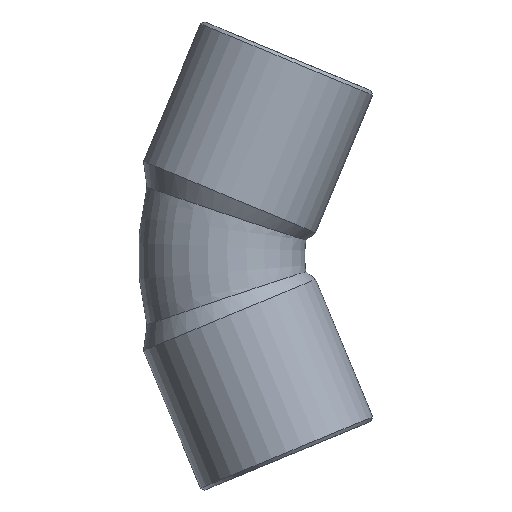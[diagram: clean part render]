
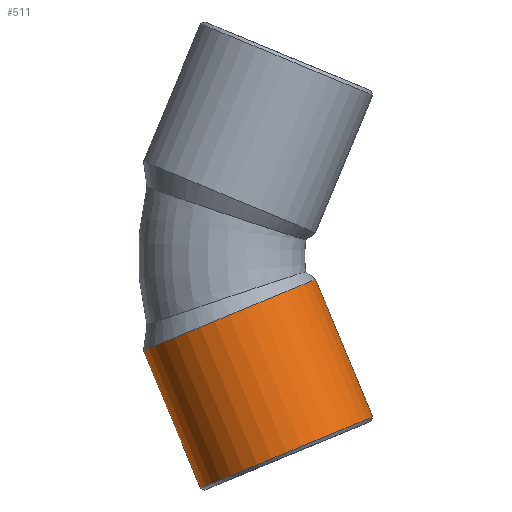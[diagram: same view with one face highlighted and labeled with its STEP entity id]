
A CAD part, front view. The second image highlights one B-rep face of the part: STEP entity #511.
In plain terms, the highlighted cylindrical face has radius 5.6 mm (diameter 11.2 mm), a partial arc.
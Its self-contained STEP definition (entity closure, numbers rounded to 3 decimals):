
#201=CARTESIAN_POINT('',(-12.258,0.,-5.69));
#202=VERTEX_POINT('',#201);
#209=CARTESIAN_POINT('',(-1.911,0.,-1.404));
#210=VERTEX_POINT('',#209);
#211=CARTESIAN_POINT('',(-7.085,0.,-3.547));
#212=DIRECTION('',(-0.383,0.,0.924));
#213=DIRECTION('',(0.924,0.,0.383));
#214=AXIS2_PLACEMENT_3D('',#211,#212,#213);
#215=CIRCLE('',#214,5.6);
#216=EDGE_CURVE('',#202,#210,#215,.T.);
#480=CARTESIAN_POINT('',(-7.023,0.,-3.696));
#481=DIRECTION('',(0.383,0.,-0.924));
#482=DIRECTION('',(0.924,0.,0.383));
#483=AXIS2_PLACEMENT_3D('',#480,#481,#482);
#484=CYLINDRICAL_SURFACE('',#483,5.6);
#485=CARTESIAN_POINT('',(1.518,0.,-9.683));
#486=VERTEX_POINT('',#485);
#487=CARTESIAN_POINT('',(-1.911,0.,-1.404));
#488=DIRECTION('',(0.383,0.,-0.924));
#489=VECTOR('',#488,8.961);
#490=LINE('',#487,#489);
#491=EDGE_CURVE('',#210,#486,#490,.T.);
#492=ORIENTED_EDGE('',*,*,#491,.F.);
#493=ORIENTED_EDGE('',*,*,#216,.F.);
#494=CARTESIAN_POINT('',(-8.829,0.,-13.969));
#495=VERTEX_POINT('',#494);
#496=CARTESIAN_POINT('',(-8.829,0.,-13.969));
#497=DIRECTION('',(-0.383,0.,0.924));
#498=VECTOR('',#497,8.961);
#499=LINE('',#496,#498);
#500=EDGE_CURVE('',#495,#202,#499,.T.);
#501=ORIENTED_EDGE('',*,*,#500,.F.);
#502=CARTESIAN_POINT('',(-3.655,0.,-11.826));
#503=DIRECTION('',(0.383,0.,-0.924));
#504=DIRECTION('',(0.924,0.,0.383));
#505=AXIS2_PLACEMENT_3D('',#502,#503,#504);
#506=CIRCLE('',#505,5.6);
#507=EDGE_CURVE('',#486,#495,#506,.T.);
#508=ORIENTED_EDGE('',*,*,#507,.F.);
#509=EDGE_LOOP('',(#492,#493,#501,#508));
#510=FACE_OUTER_BOUND('',#509,.T.);
#511=ADVANCED_FACE('',(#510),#484,.T.);
